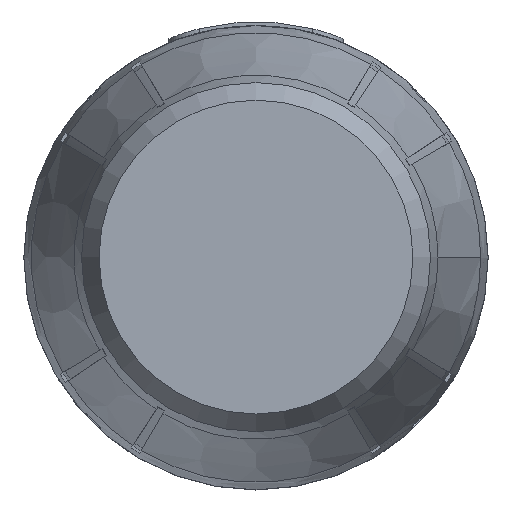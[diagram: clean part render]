
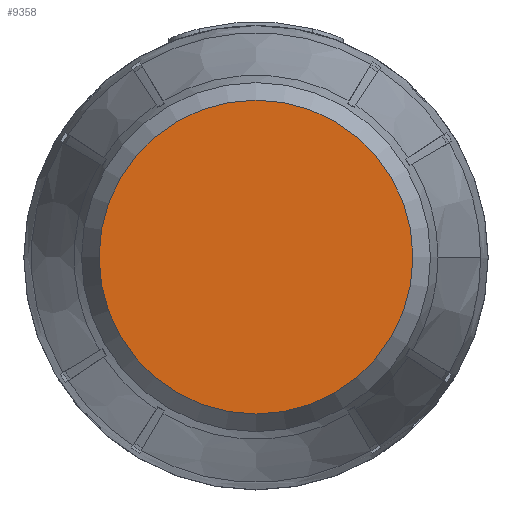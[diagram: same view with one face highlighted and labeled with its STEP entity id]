
A CAD part, top view. The second image highlights one B-rep face of the part: STEP entity #9358.
In plain terms, the highlighted planar face has unit normal (0, 0, 1).
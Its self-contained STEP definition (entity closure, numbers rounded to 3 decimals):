
#9314 = VERTEX_POINT('',#9315);
#9315 = CARTESIAN_POINT('',(25.,0.,204.));
#9321 = EDGE_CURVE('',#9314,#9314,#9322,.T.);
#9322 = CIRCLE('',#9323,25.);
#9323 = AXIS2_PLACEMENT_3D('',#9324,#9325,#9326);
#9324 = CARTESIAN_POINT('',(0.,0.,204.));
#9325 = DIRECTION('',(0.,0.,1.));
#9326 = DIRECTION('',(1.,0.,0.));
#9358 = ADVANCED_FACE('',(#9359),#9362,.T.);
#9359 = FACE_BOUND('',#9360,.T.);
#9360 = EDGE_LOOP('',(#9361));
#9361 = ORIENTED_EDGE('',*,*,#9321,.T.);
#9362 = PLANE('',#9363);
#9363 = AXIS2_PLACEMENT_3D('',#9364,#9365,#9366);
#9364 = CARTESIAN_POINT('',(0.,0.,204.));
#9365 = DIRECTION('',(0.,0.,1.));
#9366 = DIRECTION('',(1.,0.,0.));
